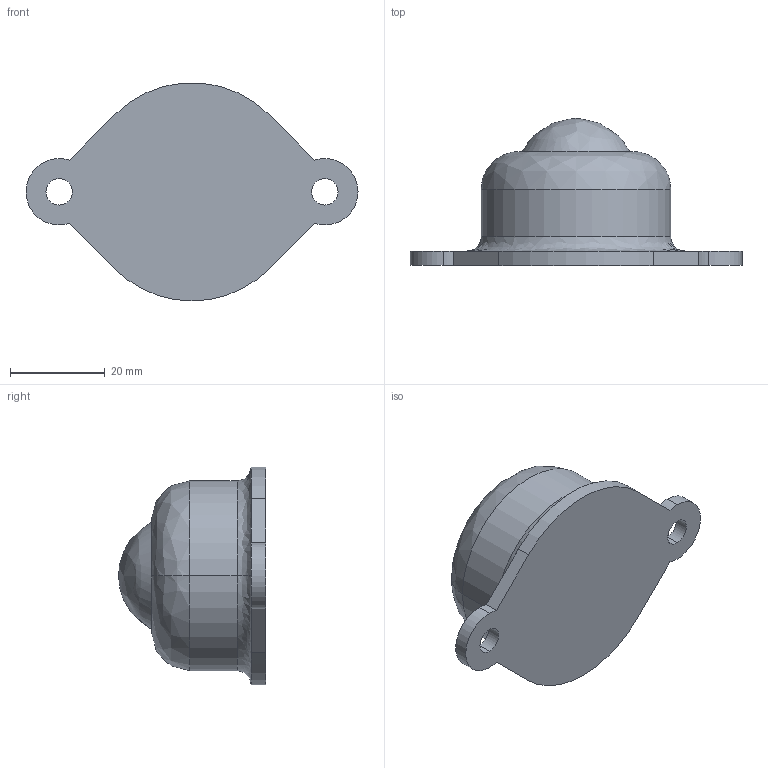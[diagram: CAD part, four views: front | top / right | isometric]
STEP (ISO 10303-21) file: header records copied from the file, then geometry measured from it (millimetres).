
FILE_DESCRIPTION (( 'STEP AP203' ), '1' );
FILE_NAME ('pvp30j.STEP', '2015-11-25T07:50:53', ( '' ), ( '' ), 'SwSTEP 2.0', 'SolidWorks 2013', '' );
FILE_SCHEMA (( 'CONFIG_CONTROL_DESIGN' ));
Length unit declared in the file: millimetre
Products named in the file (1): pvp30j
Bounding box: 70 x 31 x 45.91 mm (x, y, z)
Volume: 32556 mm3; surface area: 6745.8 mm2
Topology: 1 solids, 1 shells, 28 faces, 69 edges, 44 vertices
Faces by surface type: cylinder 15, plane 8, bspline 5
Entity records: 1135 total; most frequent: CARTESIAN_POINT 391, DIRECTION 143, ORIENTED_EDGE 138, EDGE_CURVE 69, AXIS2_PLACEMENT_3D 58, VERTEX_POINT 44, CIRCLE 34, EDGE_LOOP 33
